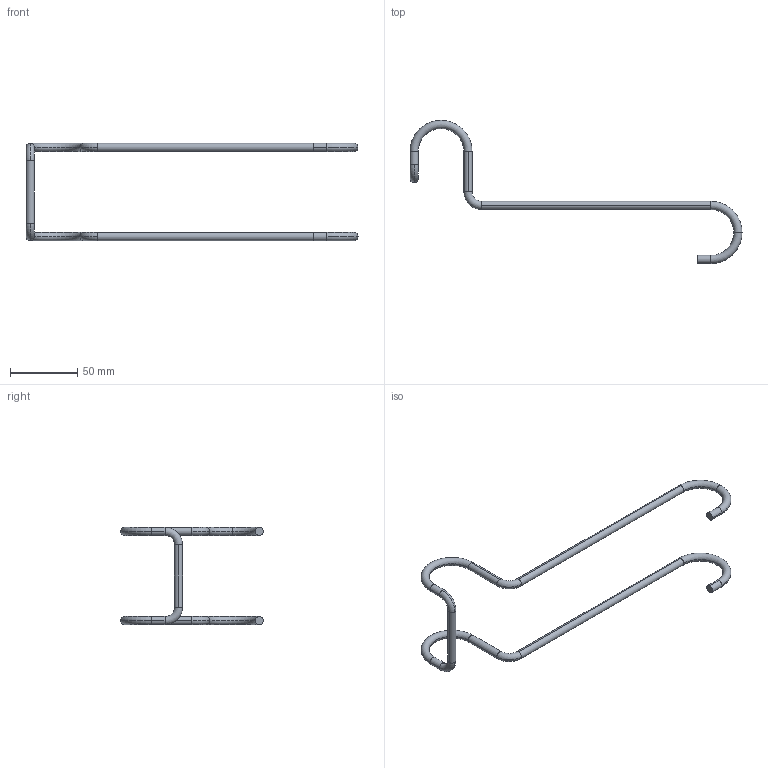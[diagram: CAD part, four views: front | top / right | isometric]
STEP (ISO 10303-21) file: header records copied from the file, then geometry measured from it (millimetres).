
FILE_DESCRIPTION (( 'STEP AP203' ), '1' );
FILE_NAME ('015.300.013.STEP', '2016-10-24T08:57:02', ( '' ), ( '' ), 'SwSTEP 2.0', 'SolidWorks 2016', '' );
FILE_SCHEMA (( 'CONFIG_CONTROL_DESIGN' ));
Length unit declared in the file: millimetre
Products named in the file (1): 015.300.013
Bounding box: 246 x 106 x 72 mm (x, y, z)
Volume: 22624 mm3; surface area: 15139.2 mm2
Topology: 1 solids, 1 shells, 38 faces, 96 edges, 60 vertices
Faces by surface type: torus 18, cylinder 18, plane 2
Entity records: 1259 total; most frequent: DIRECTION 252, CARTESIAN_POINT 195, ORIENTED_EDGE 192, AXIS2_PLACEMENT_3D 117, EDGE_CURVE 96, CIRCLE 78, VERTEX_POINT 60, EDGE_LOOP 38
